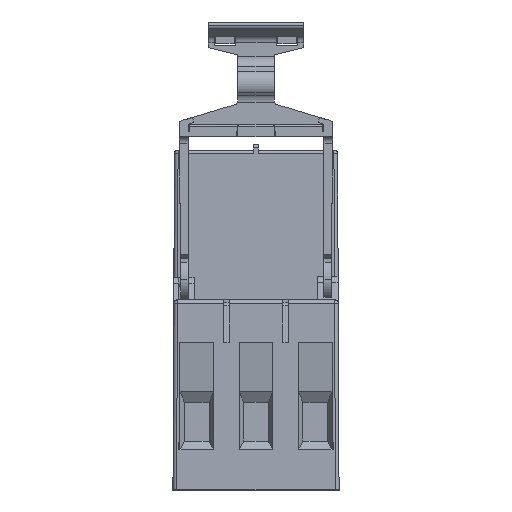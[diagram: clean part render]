
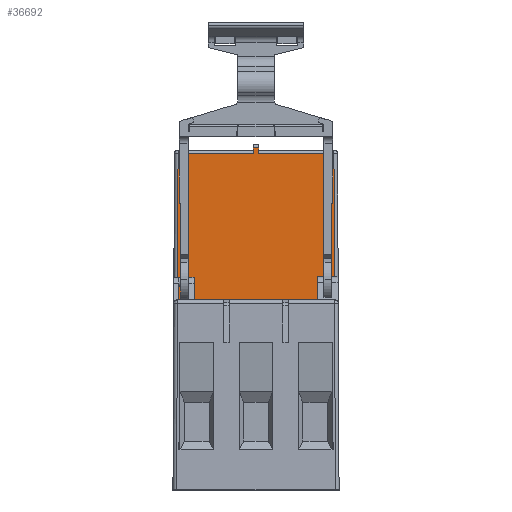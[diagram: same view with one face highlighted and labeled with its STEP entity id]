
A CAD part, front view. The second image highlights one B-rep face of the part: STEP entity #36692.
In plain terms, the highlighted planar face has unit normal (0, -1, 0.004).
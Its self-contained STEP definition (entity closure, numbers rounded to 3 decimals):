
#292 = LINE ( 'NONE', #38545, #21422 ) ;
#383 = LINE ( 'NONE', #27695, #41753 ) ;
#761 = CARTESIAN_POINT ( 'NONE',  ( 11.763, 52.604, 46.802 ) ) ;
#1172 = ORIENTED_EDGE ( 'NONE', *, *, #5461, .T. ) ;
#1617 = CARTESIAN_POINT ( 'NONE',  ( 0.113, 52.604, 46.802 ) ) ;
#1671 = VERTEX_POINT ( 'NONE', #3583 ) ;
#2410 = CARTESIAN_POINT ( 'NONE',  ( 0.113, 52.433, 7.5 ) ) ;
#3583 = CARTESIAN_POINT ( 'NONE',  ( 19.863, 52.513, 26. ) ) ;
#4157 = LINE ( 'NONE', #7730, #40001 ) ;
#4644 = EDGE_CURVE ( 'NONE', #18422, #16042, #13694, .T. ) ;
#4888 = VERTEX_POINT ( 'NONE', #10027 ) ;
#4921 = DIRECTION ( 'NONE',  ( -0.004, -0.004, -1. ) ) ;
#5461 = EDGE_CURVE ( 'NONE', #25105, #27589, #5580, .T. ) ;
#5580 = LINE ( 'NONE', #32888, #11160 ) ;
#7730 = CARTESIAN_POINT ( 'NONE',  ( 0.113, 52.513, 26. ) ) ;
#8598 = ORIENTED_EDGE ( 'NONE', *, *, #9512, .T. ) ;
#9512 = EDGE_CURVE ( 'NONE', #10178, #4888, #24273, .T. ) ;
#9760 = AXIS2_PLACEMENT_3D ( 'NONE', #2410, #18768, #16097 ) ;
#10027 = CARTESIAN_POINT ( 'NONE',  ( 10.963, 52.601, 46.002 ) ) ;
#10178 = VERTEX_POINT ( 'NONE', #28677 ) ;
#10570 = VECTOR ( 'NONE', #38001, 1000. ) ;
#10754 = CARTESIAN_POINT ( 'NONE',  ( 11.763, 52.604, 46.802 ) ) ;
#10876 = VECTOR ( 'NONE', #42534, 1000. ) ;
#10946 = VECTOR ( 'NONE', #33555, 1000. ) ;
#11160 = VECTOR ( 'NONE', #4921, 1000. ) ;
#11728 = EDGE_CURVE ( 'NONE', #4888, #25105, #383, .T. ) ;
#12121 = EDGE_CURVE ( 'NONE', #27589, #38432, #4157, .T. ) ;
#13694 = LINE ( 'NONE', #10754, #10570 ) ;
#14055 = CARTESIAN_POINT ( 'NONE',  ( 0.701, 52.601, 46.002 ) ) ;
#14283 = CARTESIAN_POINT ( 'NONE',  ( 10.963, 52.433, 7.5 ) ) ;
#14626 = LINE ( 'NONE', #28868, #10876 ) ;
#15309 = DIRECTION ( 'NONE',  ( -1., 0., 0. ) ) ;
#16042 = VERTEX_POINT ( 'NONE', #23658 ) ;
#16097 = DIRECTION ( 'NONE',  ( 0., -0.004, -1. ) ) ;
#16629 = ORIENTED_EDGE ( 'NONE', *, *, #24256, .T. ) ;
#16710 = CARTESIAN_POINT ( 'NONE',  ( 11.763, 52.601, 46.002 ) ) ;
#16943 = ORIENTED_EDGE ( 'NONE', *, *, #12121, .T. ) ;
#16993 = ORIENTED_EDGE ( 'NONE', *, *, #18168, .T. ) ;
#17410 = ORIENTED_EDGE ( 'NONE', *, *, #44168, .T. ) ;
#18168 = EDGE_CURVE ( 'NONE', #25957, #16042, #29264, .T. ) ;
#18422 = VERTEX_POINT ( 'NONE', #761 ) ;
#18529 = CARTESIAN_POINT ( 'NONE',  ( 22.113, 52.513, 26. ) ) ;
#18768 = DIRECTION ( 'NONE',  ( 0., -1., 0.004 ) ) ;
#19362 = ORIENTED_EDGE ( 'NONE', *, *, #4644, .F. ) ;
#21206 = DIRECTION ( 'NONE',  ( -1., 0., 0. ) ) ;
#21422 = VECTOR ( 'NONE', #21766, 1000. ) ;
#21766 = DIRECTION ( 'NONE',  ( 1., 0., 0. ) ) ;
#22423 = CARTESIAN_POINT ( 'NONE',  ( 22.113, 52.513, 26. ) ) ;
#23658 = CARTESIAN_POINT ( 'NONE',  ( 11.763, 52.601, 46.002 ) ) ;
#24256 = EDGE_CURVE ( 'NONE', #1671, #36095, #292, .T. ) ;
#24273 = LINE ( 'NONE', #14283, #10946 ) ;
#25105 = VERTEX_POINT ( 'NONE', #14055 ) ;
#25240 = DIRECTION ( 'NONE',  ( -1., 0., 0. ) ) ;
#25957 = VERTEX_POINT ( 'NONE', #31752 ) ;
#27589 = VERTEX_POINT ( 'NONE', #27988 ) ;
#27695 = CARTESIAN_POINT ( 'NONE',  ( 0.203, 52.601, 46.002 ) ) ;
#27988 = CARTESIAN_POINT ( 'NONE',  ( 0.613, 52.513, 26. ) ) ;
#28604 = EDGE_LOOP ( 'NONE', ( #31365, #1172, #16943, #17410, #16629, #38953, #16993, #19362, #30298, #8598 ) ) ;
#28677 = CARTESIAN_POINT ( 'NONE',  ( 10.963, 52.604, 46.802 ) ) ;
#28868 = CARTESIAN_POINT ( 'NONE',  ( 0.113, 52.513, 26. ) ) ;
#29264 = LINE ( 'NONE', #16710, #30045 ) ;
#30045 = VECTOR ( 'NONE', #25240, 1000. ) ;
#30258 = EDGE_CURVE ( 'NONE', #18422, #10178, #32304, .T. ) ;
#30298 = ORIENTED_EDGE ( 'NONE', *, *, #30258, .T. ) ;
#31365 = ORIENTED_EDGE ( 'NONE', *, *, #11728, .T. ) ;
#31752 = CARTESIAN_POINT ( 'NONE',  ( 22.026, 52.601, 46.002 ) ) ;
#32184 = DIRECTION ( 'NONE',  ( -0.004, 0.004, 1. ) ) ;
#32304 = LINE ( 'NONE', #1617, #34019 ) ;
#32888 = CARTESIAN_POINT ( 'NONE',  ( 0.533, 52.433, 7.498 ) ) ;
#33075 = PLANE ( 'NONE',  #9760 ) ;
#33555 = DIRECTION ( 'NONE',  ( 0., -0.004, -1. ) ) ;
#33576 = EDGE_CURVE ( 'NONE', #36095, #25957, #42674, .T. ) ;
#34019 = VECTOR ( 'NONE', #15309, 1000. ) ;
#35965 = FACE_OUTER_BOUND ( 'NONE', #28604, .T. ) ;
#36095 = VERTEX_POINT ( 'NONE', #22423 ) ;
#36692 = ADVANCED_FACE ( 'NONE', ( #35965 ), #33075, .T. ) ;
#37075 = VECTOR ( 'NONE', #32184, 1000. ) ;
#38001 = DIRECTION ( 'NONE',  ( 0., -0.004, -1. ) ) ;
#38347 = DIRECTION ( 'NONE',  ( 1., 0., 0. ) ) ;
#38432 = VERTEX_POINT ( 'NONE', #38750 ) ;
#38545 = CARTESIAN_POINT ( 'NONE',  ( 0.113, 52.513, 26. ) ) ;
#38750 = CARTESIAN_POINT ( 'NONE',  ( 2.863, 52.513, 26. ) ) ;
#38953 = ORIENTED_EDGE ( 'NONE', *, *, #33576, .T. ) ;
#40001 = VECTOR ( 'NONE', #38347, 1000. ) ;
#41753 = VECTOR ( 'NONE', #21206, 1000. ) ;
#42534 = DIRECTION ( 'NONE',  ( 1., 0., 0. ) ) ;
#42674 = LINE ( 'NONE', #18529, #37075 ) ;
#44168 = EDGE_CURVE ( 'NONE', #38432, #1671, #14626, .T. ) ;
